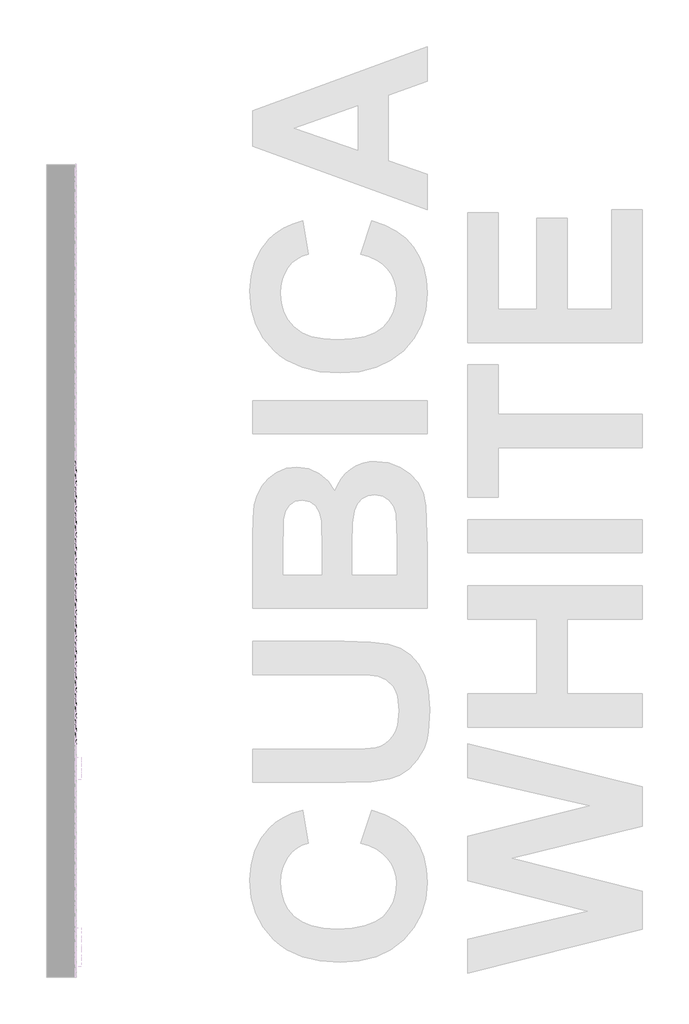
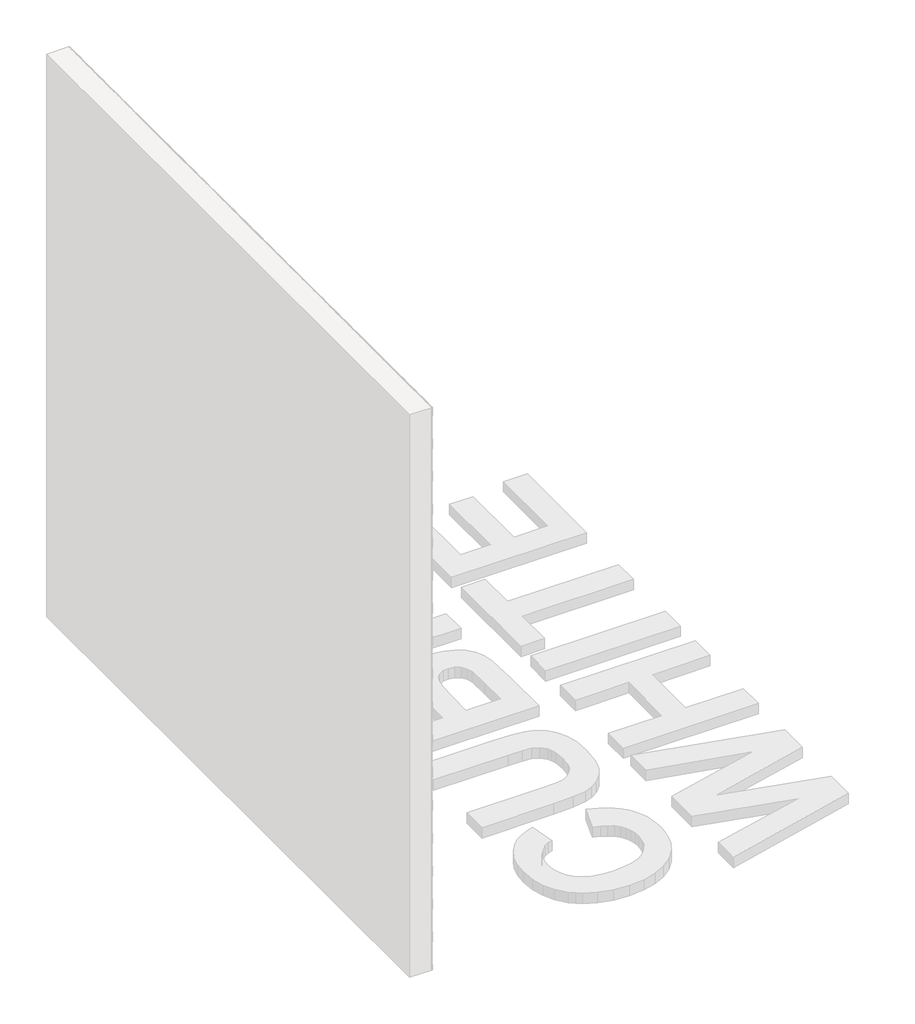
# One storey, part 108 of 121: 144 proxies.
"""IFC4 building model written with IfcOpenShell, lengths in millimetres."""

from ifc_helpers import new_model, si_unit, origin, place, context, project, spatial, transform, mapped, element, save
from components import generic_models_b2b2c5c1, generic_models_9bf73f6f, generic_models_5d175859

model = new_model("IFC4")

# Units and contexts
model_context = context("Model", 3, world=origin())
ifc_project = project(units=[si_unit("LENGTHUNIT", "METRE", prefix="MILLI")], contexts=[model_context])

# Site, building, storey
site = spatial("IfcSite", under=ifc_project)
building = spatial("IfcBuilding", under=site)
storey = spatial("IfcBuildingStorey", under=building, Name="PORTOBELLO - SHOWROOM", Elevation=0.0)

# Proxies
placement = place(None, origin())
generic_models_shape = generic_models_b2b2c5c1(model_context)
element("IfcBuildingElementProxy", 1, Name="PBSHOP - CUBICA WHITE 4,8X8,3 : CUBICA WHITE - POSIÇÃO 01", ObjectType="PBSHOP - CUBICA WHITE 4,8X8,3 : CUBICA WHITE - POSIÇÃO 01", at=placement, inside=storey, context=model_context, shape_type="MappedRepresentation", body=[
    mapped(generic_models_shape, transform((150369.5341846, 20059.5208034, 1223.4417424), x_axis=(0.0, 1.0, 0.0), y_axis=(0.0, 0.0, 1.0), z_axis=(1.0, 0.0, 0.0))),
])
element("IfcBuildingElementProxy", 2, Name="PBSHOP - CUBICA WHITE 4,8X8,3 : CUBICA WHITE - POSIÇÃO 01", ObjectType="PBSHOP - CUBICA WHITE 4,8X8,3 : CUBICA WHITE - POSIÇÃO 01", at=placement, inside=storey, context=model_context, shape_type="MappedRepresentation", body=[
    mapped(generic_models_shape, transform((150369.5341846, 20150.3600726, 1223.4417424), x_axis=(0.0, 1.0, 0.0), y_axis=(0.0, 0.0, 1.0), z_axis=(1.0, 0.0, 0.0))),
])
element("IfcBuildingElementProxy", 3, Name="PBSHOP - CUBICA WHITE 4,8X8,3 : CUBICA WHITE - POSIÇÃO 01", ObjectType="PBSHOP - CUBICA WHITE 4,8X8,3 : CUBICA WHITE - POSIÇÃO 01", at=placement, inside=storey, context=model_context, shape_type="MappedRepresentation", body=[
    mapped(generic_models_shape, transform((150369.5341846, 20241.1993419, 1223.4417424), x_axis=(0.0, 1.0, 0.0), y_axis=(0.0, 0.0, 1.0), z_axis=(1.0, 0.0, 0.0))),
])
element("IfcBuildingElementProxy", 4, Name="PBSHOP - CUBICA WHITE 4,8X8,3 : CUBICA WHITE - POSIÇÃO 01", ObjectType="PBSHOP - CUBICA WHITE 4,8X8,3 : CUBICA WHITE - POSIÇÃO 01", at=placement, inside=storey, context=model_context, shape_type="MappedRepresentation", body=[
    mapped(generic_models_shape, transform((150369.5341846, 20332.0386111, 1223.4417424), x_axis=(0.0, 1.0, 0.0), y_axis=(0.0, 0.0, 1.0), z_axis=(1.0, 0.0, 0.0))),
])
element("IfcBuildingElementProxy", 5, Name="PBSHOP - CUBICA WHITE 4,8X8,3 : CUBICA WHITE - POSIÇÃO 01", ObjectType="PBSHOP - CUBICA WHITE 4,8X8,3 : CUBICA WHITE - POSIÇÃO 01", at=placement, inside=storey, context=model_context, shape_type="MappedRepresentation", body=[
    mapped(generic_models_shape, transform((150369.5341846, 20422.8778804, 1223.4417424), x_axis=(0.0, 1.0, 0.0), y_axis=(0.0, 0.0, 1.0), z_axis=(1.0, 0.0, 0.0))),
])
element("IfcBuildingElementProxy", 6, Name="PBSHOP - CUBICA WHITE 4,8X8,3 : CUBICA WHITE - POSIÇÃO 01", ObjectType="PBSHOP - CUBICA WHITE 4,8X8,3 : CUBICA WHITE - POSIÇÃO 01", at=placement, inside=storey, context=model_context, shape_type="MappedRepresentation", body=[
    mapped(generic_models_shape, transform((150369.5341846, 20513.7171496, 1223.4417424), x_axis=(0.0, 1.0, 0.0), y_axis=(0.0, 0.0, 1.0), z_axis=(1.0, 0.0, 0.0))),
])
element("IfcBuildingElementProxy", 7, Name="PBSHOP - CUBICA WHITE 4,8X8,3 : CUBICA WHITE - POSIÇÃO 01", ObjectType="PBSHOP - CUBICA WHITE 4,8X8,3 : CUBICA WHITE - POSIÇÃO 01", at=placement, inside=storey, context=model_context, shape_type="MappedRepresentation", body=[
    mapped(generic_models_shape, transform((150369.5341846, 20604.5564189, 1223.4417424), x_axis=(0.0, 1.0, 0.0), y_axis=(0.0, 0.0, 1.0), z_axis=(1.0, 0.0, 0.0))),
])
element("IfcBuildingElementProxy", 8, Name="PBSHOP - CUBICA WHITE 4,8X8,3 : CUBICA WHITE - POSIÇÃO 01", ObjectType="PBSHOP - CUBICA WHITE 4,8X8,3 : CUBICA WHITE - POSIÇÃO 01", at=placement, inside=storey, context=model_context, shape_type="MappedRepresentation", body=[
    mapped(generic_models_shape, transform((150369.5341846, 20695.3956881, 1223.4417424), x_axis=(0.0, 1.0, 0.0), y_axis=(0.0, 0.0, 1.0), z_axis=(1.0, 0.0, 0.0))),
])
element("IfcBuildingElementProxy", 9, Name="PBSHOP - CUBICA WHITE 4,8X8,3 : CUBICA WHITE - POSIÇÃO 01", ObjectType="PBSHOP - CUBICA WHITE 4,8X8,3 : CUBICA WHITE - POSIÇÃO 01", at=placement, inside=storey, context=model_context, shape_type="MappedRepresentation", body=[
    mapped(generic_models_shape, transform((150369.5341846, 20786.2349573, 1223.4417424), x_axis=(0.0, 1.0, 0.0), y_axis=(0.0, 0.0, 1.0), z_axis=(1.0, 0.0, 0.0))),
])
element("IfcBuildingElementProxy", 10, Name="PBSHOP - CUBICA WHITE 4,8X8,3 : CUBICA WHITE - POSIÇÃO 01", ObjectType="PBSHOP - CUBICA WHITE 4,8X8,3 : CUBICA WHITE - POSIÇÃO 01", at=placement, inside=storey, context=model_context, shape_type="MappedRepresentation", body=[
    mapped(generic_models_shape, transform((150369.5341846, 20877.0742266, 1223.4417424), x_axis=(0.0, 1.0, 0.0), y_axis=(0.0, 0.0, 1.0), z_axis=(1.0, 0.0, 0.0))),
])
element("IfcBuildingElementProxy", 11, Name="PBSHOP - CUBICA WHITE 4,8X8,3 : CUBICA WHITE - POSIÇÃO 01", ObjectType="PBSHOP - CUBICA WHITE 4,8X8,3 : CUBICA WHITE - POSIÇÃO 01", at=placement, inside=storey, context=model_context, shape_type="MappedRepresentation", body=[
    mapped(generic_models_shape, transform((150369.5341846, 20967.9134958, 1223.4417424), x_axis=(0.0, 1.0, 0.0), y_axis=(0.0, 0.0, 1.0), z_axis=(1.0, 0.0, 0.0))),
])
element("IfcBuildingElementProxy", 12, Name="PBSHOP - CUBICA WHITE 4,8X8,3 : CUBICA WHITE - POSIÇÃO 01", ObjectType="PBSHOP - CUBICA WHITE 4,8X8,3 : CUBICA WHITE - POSIÇÃO 01", at=placement, inside=storey, context=model_context, shape_type="MappedRepresentation", body=[
    mapped(generic_models_shape, transform((150369.5341846, 20014.1011688, 1302.3763808), x_axis=(0.0, 1.0, 0.0), y_axis=(0.0, 0.0, 1.0), z_axis=(1.0, 0.0, 0.0))),
])
element("IfcBuildingElementProxy", 13, Name="PBSHOP - CUBICA WHITE 4,8X8,3 : CUBICA WHITE - POSIÇÃO 01", ObjectType="PBSHOP - CUBICA WHITE 4,8X8,3 : CUBICA WHITE - POSIÇÃO 01", at=placement, inside=storey, context=model_context, shape_type="MappedRepresentation", body=[
    mapped(generic_models_shape, transform((150369.5341846, 20104.940438, 1302.3763808), x_axis=(0.0, 1.0, 0.0), y_axis=(0.0, 0.0, 1.0), z_axis=(1.0, 0.0, 0.0))),
])
element("IfcBuildingElementProxy", 14, Name="PBSHOP - CUBICA WHITE 4,8X8,3 : CUBICA WHITE - POSIÇÃO 01", ObjectType="PBSHOP - CUBICA WHITE 4,8X8,3 : CUBICA WHITE - POSIÇÃO 01", at=placement, inside=storey, context=model_context, shape_type="MappedRepresentation", body=[
    mapped(generic_models_shape, transform((150369.5341846, 20195.7797073, 1302.3763808), x_axis=(0.0, 1.0, 0.0), y_axis=(0.0, 0.0, 1.0), z_axis=(1.0, 0.0, 0.0))),
])
element("IfcBuildingElementProxy", 15, Name="PBSHOP - CUBICA WHITE 4,8X8,3 : CUBICA WHITE - POSIÇÃO 01", ObjectType="PBSHOP - CUBICA WHITE 4,8X8,3 : CUBICA WHITE - POSIÇÃO 01", at=placement, inside=storey, context=model_context, shape_type="MappedRepresentation", body=[
    mapped(generic_models_shape, transform((150369.5341846, 20286.6189765, 1302.3763808), x_axis=(0.0, 1.0, 0.0), y_axis=(0.0, 0.0, 1.0), z_axis=(1.0, 0.0, 0.0))),
])
element("IfcBuildingElementProxy", 16, Name="PBSHOP - CUBICA WHITE 4,8X8,3 : CUBICA WHITE - POSIÇÃO 01", ObjectType="PBSHOP - CUBICA WHITE 4,8X8,3 : CUBICA WHITE - POSIÇÃO 01", at=placement, inside=storey, context=model_context, shape_type="MappedRepresentation", body=[
    mapped(generic_models_shape, transform((150369.5341846, 20377.4582457, 1302.3763808), x_axis=(0.0, 1.0, 0.0), y_axis=(0.0, 0.0, 1.0), z_axis=(1.0, 0.0, 0.0))),
])
element("IfcBuildingElementProxy", 17, Name="PBSHOP - CUBICA WHITE 4,8X8,3 : CUBICA WHITE - POSIÇÃO 01", ObjectType="PBSHOP - CUBICA WHITE 4,8X8,3 : CUBICA WHITE - POSIÇÃO 01", at=placement, inside=storey, context=model_context, shape_type="MappedRepresentation", body=[
    mapped(generic_models_shape, transform((150369.5341846, 20468.297515, 1302.3763808), x_axis=(0.0, 1.0, 0.0), y_axis=(0.0, 0.0, 1.0), z_axis=(1.0, 0.0, 0.0))),
])
element("IfcBuildingElementProxy", 18, Name="PBSHOP - CUBICA WHITE 4,8X8,3 : CUBICA WHITE - POSIÇÃO 01", ObjectType="PBSHOP - CUBICA WHITE 4,8X8,3 : CUBICA WHITE - POSIÇÃO 01", at=placement, inside=storey, context=model_context, shape_type="MappedRepresentation", body=[
    mapped(generic_models_shape, transform((150369.5341846, 20559.1367842, 1302.3763808), x_axis=(0.0, 1.0, 0.0), y_axis=(0.0, 0.0, 1.0), z_axis=(1.0, 0.0, 0.0))),
])
element("IfcBuildingElementProxy", 19, Name="PBSHOP - CUBICA WHITE 4,8X8,3 : CUBICA WHITE - POSIÇÃO 01", ObjectType="PBSHOP - CUBICA WHITE 4,8X8,3 : CUBICA WHITE - POSIÇÃO 01", at=placement, inside=storey, context=model_context, shape_type="MappedRepresentation", body=[
    mapped(generic_models_shape, transform((150369.5341846, 20649.9760535, 1302.3763808), x_axis=(0.0, 1.0, 0.0), y_axis=(0.0, 0.0, 1.0), z_axis=(1.0, 0.0, 0.0))),
])
element("IfcBuildingElementProxy", 20, Name="PBSHOP - CUBICA WHITE 4,8X8,3 : CUBICA WHITE - POSIÇÃO 01", ObjectType="PBSHOP - CUBICA WHITE 4,8X8,3 : CUBICA WHITE - POSIÇÃO 01", at=placement, inside=storey, context=model_context, shape_type="MappedRepresentation", body=[
    mapped(generic_models_shape, transform((150369.5341846, 20740.8153227, 1302.3763808), x_axis=(0.0, 1.0, 0.0), y_axis=(0.0, 0.0, 1.0), z_axis=(1.0, 0.0, 0.0))),
])
element("IfcBuildingElementProxy", 21, Name="PBSHOP - CUBICA WHITE 4,8X8,3 : CUBICA WHITE - POSIÇÃO 01", ObjectType="PBSHOP - CUBICA WHITE 4,8X8,3 : CUBICA WHITE - POSIÇÃO 01", at=placement, inside=storey, context=model_context, shape_type="MappedRepresentation", body=[
    mapped(generic_models_shape, transform((150369.5341846, 20831.654592, 1302.3763808), x_axis=(0.0, 1.0, 0.0), y_axis=(0.0, 0.0, 1.0), z_axis=(1.0, 0.0, 0.0))),
])
element("IfcBuildingElementProxy", 22, Name="PBSHOP - CUBICA WHITE 4,8X8,3 : CUBICA WHITE - POSIÇÃO 01", ObjectType="PBSHOP - CUBICA WHITE 4,8X8,3 : CUBICA WHITE - POSIÇÃO 01", at=placement, inside=storey, context=model_context, shape_type="MappedRepresentation", body=[
    mapped(generic_models_shape, transform((150369.5341846, 20922.4938612, 1302.3763808), x_axis=(0.0, 1.0, 0.0), y_axis=(0.0, 0.0, 1.0), z_axis=(1.0, 0.0, 0.0))),
])
element("IfcBuildingElementProxy", 23, Name="PBSHOP - CUBICA WHITE 4,8X8,3 : CUBICA WHITE - POSIÇÃO 01", ObjectType="PBSHOP - CUBICA WHITE 4,8X8,3 : CUBICA WHITE - POSIÇÃO 01", at=placement, inside=storey, context=model_context, shape_type="MappedRepresentation", body=[
    mapped(generic_models_shape, transform((150369.5341846, 20059.5208034, 1381.3110192), x_axis=(0.0, 1.0, 0.0), y_axis=(0.0, 0.0, 1.0), z_axis=(1.0, 0.0, 0.0))),
])
element("IfcBuildingElementProxy", 24, Name="PBSHOP - CUBICA WHITE 4,8X8,3 : CUBICA WHITE - POSIÇÃO 01", ObjectType="PBSHOP - CUBICA WHITE 4,8X8,3 : CUBICA WHITE - POSIÇÃO 01", at=placement, inside=storey, context=model_context, shape_type="MappedRepresentation", body=[
    mapped(generic_models_shape, transform((150369.5341846, 20150.3600726, 1381.3110192), x_axis=(0.0, 1.0, 0.0), y_axis=(0.0, 0.0, 1.0), z_axis=(1.0, 0.0, 0.0))),
])
element("IfcBuildingElementProxy", 25, Name="PBSHOP - CUBICA WHITE 4,8X8,3 : CUBICA WHITE - POSIÇÃO 01", ObjectType="PBSHOP - CUBICA WHITE 4,8X8,3 : CUBICA WHITE - POSIÇÃO 01", at=placement, inside=storey, context=model_context, shape_type="MappedRepresentation", body=[
    mapped(generic_models_shape, transform((150369.5341846, 20241.1993419, 1381.3110192), x_axis=(0.0, 1.0, 0.0), y_axis=(0.0, 0.0, 1.0), z_axis=(1.0, 0.0, 0.0))),
])
element("IfcBuildingElementProxy", 26, Name="PBSHOP - CUBICA WHITE 4,8X8,3 : CUBICA WHITE - POSIÇÃO 01", ObjectType="PBSHOP - CUBICA WHITE 4,8X8,3 : CUBICA WHITE - POSIÇÃO 01", at=placement, inside=storey, context=model_context, shape_type="MappedRepresentation", body=[
    mapped(generic_models_shape, transform((150369.5341846, 20332.0386111, 1381.3110192), x_axis=(0.0, 1.0, 0.0), y_axis=(0.0, 0.0, 1.0), z_axis=(1.0, 0.0, 0.0))),
])
element("IfcBuildingElementProxy", 27, Name="PBSHOP - CUBICA WHITE 4,8X8,3 : CUBICA WHITE - POSIÇÃO 01", ObjectType="PBSHOP - CUBICA WHITE 4,8X8,3 : CUBICA WHITE - POSIÇÃO 01", at=placement, inside=storey, context=model_context, shape_type="MappedRepresentation", body=[
    mapped(generic_models_shape, transform((150369.5341846, 20422.8778804, 1381.3110192), x_axis=(0.0, 1.0, 0.0), y_axis=(0.0, 0.0, 1.0), z_axis=(1.0, 0.0, 0.0))),
])
element("IfcBuildingElementProxy", 28, Name="PBSHOP - CUBICA WHITE 4,8X8,3 : CUBICA WHITE - POSIÇÃO 01", ObjectType="PBSHOP - CUBICA WHITE 4,8X8,3 : CUBICA WHITE - POSIÇÃO 01", at=placement, inside=storey, context=model_context, shape_type="MappedRepresentation", body=[
    mapped(generic_models_shape, transform((150369.5341846, 20513.7171496, 1381.3110192), x_axis=(0.0, 1.0, 0.0), y_axis=(0.0, 0.0, 1.0), z_axis=(1.0, 0.0, 0.0))),
])
element("IfcBuildingElementProxy", 29, Name="PBSHOP - CUBICA WHITE 4,8X8,3 : CUBICA WHITE - POSIÇÃO 01", ObjectType="PBSHOP - CUBICA WHITE 4,8X8,3 : CUBICA WHITE - POSIÇÃO 01", at=placement, inside=storey, context=model_context, shape_type="MappedRepresentation", body=[
    mapped(generic_models_shape, transform((150369.5341846, 20604.5564189, 1381.3110192), x_axis=(0.0, 1.0, 0.0), y_axis=(0.0, 0.0, 1.0), z_axis=(1.0, 0.0, 0.0))),
])
element("IfcBuildingElementProxy", 30, Name="PBSHOP - CUBICA WHITE 4,8X8,3 : CUBICA WHITE - POSIÇÃO 01", ObjectType="PBSHOP - CUBICA WHITE 4,8X8,3 : CUBICA WHITE - POSIÇÃO 01", at=placement, inside=storey, context=model_context, shape_type="MappedRepresentation", body=[
    mapped(generic_models_shape, transform((150369.5341846, 20695.3956881, 1381.3110192), x_axis=(0.0, 1.0, 0.0), y_axis=(0.0, 0.0, 1.0), z_axis=(1.0, 0.0, 0.0))),
])
element("IfcBuildingElementProxy", 31, Name="PBSHOP - CUBICA WHITE 4,8X8,3 : CUBICA WHITE - POSIÇÃO 01", ObjectType="PBSHOP - CUBICA WHITE 4,8X8,3 : CUBICA WHITE - POSIÇÃO 01", at=placement, inside=storey, context=model_context, shape_type="MappedRepresentation", body=[
    mapped(generic_models_shape, transform((150369.5341846, 20786.2349573, 1381.3110192), x_axis=(0.0, 1.0, 0.0), y_axis=(0.0, 0.0, 1.0), z_axis=(1.0, 0.0, 0.0))),
])
element("IfcBuildingElementProxy", 32, Name="PBSHOP - CUBICA WHITE 4,8X8,3 : CUBICA WHITE - POSIÇÃO 01", ObjectType="PBSHOP - CUBICA WHITE 4,8X8,3 : CUBICA WHITE - POSIÇÃO 01", at=placement, inside=storey, context=model_context, shape_type="MappedRepresentation", body=[
    mapped(generic_models_shape, transform((150369.5341846, 20877.0742266, 1381.3110192), x_axis=(0.0, 1.0, 0.0), y_axis=(0.0, 0.0, 1.0), z_axis=(1.0, 0.0, 0.0))),
])
element("IfcBuildingElementProxy", 33, Name="PBSHOP - CUBICA WHITE 4,8X8,3 : CUBICA WHITE - POSIÇÃO 01", ObjectType="PBSHOP - CUBICA WHITE 4,8X8,3 : CUBICA WHITE - POSIÇÃO 01", at=placement, inside=storey, context=model_context, shape_type="MappedRepresentation", body=[
    mapped(generic_models_shape, transform((150369.5341846, 20967.9134958, 1381.3110192), x_axis=(0.0, 1.0, 0.0), y_axis=(0.0, 0.0, 1.0), z_axis=(1.0, 0.0, 0.0))),
])
element("IfcBuildingElementProxy", 34, Name="PBSHOP - CUBICA WHITE 4,8X8,3 : CUBICA WHITE - POSIÇÃO 01", ObjectType="PBSHOP - CUBICA WHITE 4,8X8,3 : CUBICA WHITE - POSIÇÃO 01", at=placement, inside=storey, context=model_context, shape_type="MappedRepresentation", body=[
    mapped(generic_models_shape, transform((150369.5341846, 20014.1011688, 1460.2456575), x_axis=(0.0, 1.0, 0.0), y_axis=(0.0, 0.0, 1.0), z_axis=(1.0, 0.0, 0.0))),
])
element("IfcBuildingElementProxy", 35, Name="PBSHOP - CUBICA WHITE 4,8X8,3 : CUBICA WHITE - POSIÇÃO 01", ObjectType="PBSHOP - CUBICA WHITE 4,8X8,3 : CUBICA WHITE - POSIÇÃO 01", at=placement, inside=storey, context=model_context, shape_type="MappedRepresentation", body=[
    mapped(generic_models_shape, transform((150369.5341846, 20104.940438, 1460.2456575), x_axis=(0.0, 1.0, 0.0), y_axis=(0.0, 0.0, 1.0), z_axis=(1.0, 0.0, 0.0))),
])
element("IfcBuildingElementProxy", 36, Name="PBSHOP - CUBICA WHITE 4,8X8,3 : CUBICA WHITE - POSIÇÃO 01", ObjectType="PBSHOP - CUBICA WHITE 4,8X8,3 : CUBICA WHITE - POSIÇÃO 01", at=placement, inside=storey, context=model_context, shape_type="MappedRepresentation", body=[
    mapped(generic_models_shape, transform((150369.5341846, 20195.7797073, 1460.2456575), x_axis=(0.0, 1.0, 0.0), y_axis=(0.0, 0.0, 1.0), z_axis=(1.0, 0.0, 0.0))),
])
element("IfcBuildingElementProxy", 37, Name="PBSHOP - CUBICA WHITE 4,8X8,3 : CUBICA WHITE - POSIÇÃO 01", ObjectType="PBSHOP - CUBICA WHITE 4,8X8,3 : CUBICA WHITE - POSIÇÃO 01", at=placement, inside=storey, context=model_context, shape_type="MappedRepresentation", body=[
    mapped(generic_models_shape, transform((150369.5341846, 20286.6189765, 1460.2456575), x_axis=(0.0, 1.0, 0.0), y_axis=(0.0, 0.0, 1.0), z_axis=(1.0, 0.0, 0.0))),
])
element("IfcBuildingElementProxy", 38, Name="PBSHOP - CUBICA WHITE 4,8X8,3 : CUBICA WHITE - POSIÇÃO 01", ObjectType="PBSHOP - CUBICA WHITE 4,8X8,3 : CUBICA WHITE - POSIÇÃO 01", at=placement, inside=storey, context=model_context, shape_type="MappedRepresentation", body=[
    mapped(generic_models_shape, transform((150369.5341846, 20377.4582457, 1460.2456575), x_axis=(0.0, 1.0, 0.0), y_axis=(0.0, 0.0, 1.0), z_axis=(1.0, 0.0, 0.0))),
])
element("IfcBuildingElementProxy", 39, Name="PBSHOP - CUBICA WHITE 4,8X8,3 : CUBICA WHITE - POSIÇÃO 01", ObjectType="PBSHOP - CUBICA WHITE 4,8X8,3 : CUBICA WHITE - POSIÇÃO 01", at=placement, inside=storey, context=model_context, shape_type="MappedRepresentation", body=[
    mapped(generic_models_shape, transform((150369.5341846, 20468.297515, 1460.2456575), x_axis=(0.0, 1.0, 0.0), y_axis=(0.0, 0.0, 1.0), z_axis=(1.0, 0.0, 0.0))),
])
element("IfcBuildingElementProxy", 40, Name="PBSHOP - CUBICA WHITE 4,8X8,3 : CUBICA WHITE - POSIÇÃO 01", ObjectType="PBSHOP - CUBICA WHITE 4,8X8,3 : CUBICA WHITE - POSIÇÃO 01", at=placement, inside=storey, context=model_context, shape_type="MappedRepresentation", body=[
    mapped(generic_models_shape, transform((150369.5341846, 20559.1367842, 1460.2456575), x_axis=(0.0, 1.0, 0.0), y_axis=(0.0, 0.0, 1.0), z_axis=(1.0, 0.0, 0.0))),
])
element("IfcBuildingElementProxy", 41, Name="PBSHOP - CUBICA WHITE 4,8X8,3 : CUBICA WHITE - POSIÇÃO 01", ObjectType="PBSHOP - CUBICA WHITE 4,8X8,3 : CUBICA WHITE - POSIÇÃO 01", at=placement, inside=storey, context=model_context, shape_type="MappedRepresentation", body=[
    mapped(generic_models_shape, transform((150369.5341846, 20649.9760535, 1460.2456575), x_axis=(0.0, 1.0, 0.0), y_axis=(0.0, 0.0, 1.0), z_axis=(1.0, 0.0, 0.0))),
])
element("IfcBuildingElementProxy", 42, Name="PBSHOP - CUBICA WHITE 4,8X8,3 : CUBICA WHITE - POSIÇÃO 01", ObjectType="PBSHOP - CUBICA WHITE 4,8X8,3 : CUBICA WHITE - POSIÇÃO 01", at=placement, inside=storey, context=model_context, shape_type="MappedRepresentation", body=[
    mapped(generic_models_shape, transform((150369.5341846, 20740.8153227, 1460.2456575), x_axis=(0.0, 1.0, 0.0), y_axis=(0.0, 0.0, 1.0), z_axis=(1.0, 0.0, 0.0))),
])
element("IfcBuildingElementProxy", 43, Name="PBSHOP - CUBICA WHITE 4,8X8,3 : CUBICA WHITE - POSIÇÃO 01", ObjectType="PBSHOP - CUBICA WHITE 4,8X8,3 : CUBICA WHITE - POSIÇÃO 01", at=placement, inside=storey, context=model_context, shape_type="MappedRepresentation", body=[
    mapped(generic_models_shape, transform((150369.5341846, 20831.654592, 1460.2456575), x_axis=(0.0, 1.0, 0.0), y_axis=(0.0, 0.0, 1.0), z_axis=(1.0, 0.0, 0.0))),
])
element("IfcBuildingElementProxy", 44, Name="PBSHOP - CUBICA WHITE 4,8X8,3 : CUBICA WHITE - POSIÇÃO 01", ObjectType="PBSHOP - CUBICA WHITE 4,8X8,3 : CUBICA WHITE - POSIÇÃO 01", at=placement, inside=storey, context=model_context, shape_type="MappedRepresentation", body=[
    mapped(generic_models_shape, transform((150369.5341846, 20922.4938612, 1460.2456575), x_axis=(0.0, 1.0, 0.0), y_axis=(0.0, 0.0, 1.0), z_axis=(1.0, 0.0, 0.0))),
])
element("IfcBuildingElementProxy", 45, Name="PBSHOP - CUBICA WHITE 4,8X8,3 : CUBICA WHITE - POSIÇÃO 01", ObjectType="PBSHOP - CUBICA WHITE 4,8X8,3 : CUBICA WHITE - POSIÇÃO 01", at=placement, inside=storey, context=model_context, shape_type="MappedRepresentation", body=[
    mapped(generic_models_shape, transform((150369.5341846, 20059.5208034, 1539.1802959), x_axis=(0.0, 1.0, 0.0), y_axis=(0.0, 0.0, 1.0), z_axis=(1.0, 0.0, 0.0))),
])
element("IfcBuildingElementProxy", 46, Name="PBSHOP - CUBICA WHITE 4,8X8,3 : CUBICA WHITE - POSIÇÃO 01", ObjectType="PBSHOP - CUBICA WHITE 4,8X8,3 : CUBICA WHITE - POSIÇÃO 01", at=placement, inside=storey, context=model_context, shape_type="MappedRepresentation", body=[
    mapped(generic_models_shape, transform((150369.5341846, 20150.3600726, 1539.1802959), x_axis=(0.0, 1.0, 0.0), y_axis=(0.0, 0.0, 1.0), z_axis=(1.0, 0.0, 0.0))),
])
element("IfcBuildingElementProxy", 47, Name="PBSHOP - CUBICA WHITE 4,8X8,3 : CUBICA WHITE - POSIÇÃO 01", ObjectType="PBSHOP - CUBICA WHITE 4,8X8,3 : CUBICA WHITE - POSIÇÃO 01", at=placement, inside=storey, context=model_context, shape_type="MappedRepresentation", body=[
    mapped(generic_models_shape, transform((150369.5341846, 20241.1993419, 1539.1802959), x_axis=(0.0, 1.0, 0.0), y_axis=(0.0, 0.0, 1.0), z_axis=(1.0, 0.0, 0.0))),
])
element("IfcBuildingElementProxy", 48, Name="PBSHOP - CUBICA WHITE 4,8X8,3 : CUBICA WHITE - POSIÇÃO 01", ObjectType="PBSHOP - CUBICA WHITE 4,8X8,3 : CUBICA WHITE - POSIÇÃO 01", at=placement, inside=storey, context=model_context, shape_type="MappedRepresentation", body=[
    mapped(generic_models_shape, transform((150369.5341846, 20332.0386111, 1539.1802959), x_axis=(0.0, 1.0, 0.0), y_axis=(0.0, 0.0, 1.0), z_axis=(1.0, 0.0, 0.0))),
])
generic_models_2_shape = generic_models_9bf73f6f(model_context)
element("IfcBuildingElementProxy", 49, Name="PBSHOP - CUBICA WHITE 4,8X8,3 : CUBICA WHITE - POSIÇÃO 03", ObjectType="PBSHOP - CUBICA WHITE 4,8X8,3 : CUBICA WHITE - POSIÇÃO 03", at=placement, inside=storey, context=model_context, shape_type="MappedRepresentation", body=[
    mapped(generic_models_2_shape, transform((150369.5341846, 20718.1076646, 1104.9985744), x_axis=(0.0, 1.0, 0.0), y_axis=(0.0, 0.0, 1.0), z_axis=(1.0, 0.0, 0.0))),
])
element("IfcBuildingElementProxy", 50, Name="PBSHOP - CUBICA WHITE 4,8X8,3 : CUBICA WHITE - POSIÇÃO 03", ObjectType="PBSHOP - CUBICA WHITE 4,8X8,3 : CUBICA WHITE - POSIÇÃO 03", at=placement, inside=storey, context=model_context, shape_type="MappedRepresentation", body=[
    mapped(generic_models_2_shape, transform((150369.5341846, 20808.9469338, 1104.9985744), x_axis=(0.0, 1.0, 0.0), y_axis=(0.0, 0.0, 1.0), z_axis=(1.0, 0.0, 0.0))),
])
element("IfcBuildingElementProxy", 51, Name="PBSHOP - CUBICA WHITE 4,8X8,3 : CUBICA WHITE - POSIÇÃO 03", ObjectType="PBSHOP - CUBICA WHITE 4,8X8,3 : CUBICA WHITE - POSIÇÃO 03", at=placement, inside=storey, context=model_context, shape_type="MappedRepresentation", body=[
    mapped(generic_models_2_shape, transform((150369.5341846, 20899.7862031, 1104.9985744), x_axis=(0.0, 1.0, 0.0), y_axis=(0.0, 0.0, 1.0), z_axis=(1.0, 0.0, 0.0))),
])
element("IfcBuildingElementProxy", 52, Name="PBSHOP - CUBICA WHITE 4,8X8,3 : CUBICA WHITE - POSIÇÃO 03", ObjectType="PBSHOP - CUBICA WHITE 4,8X8,3 : CUBICA WHITE - POSIÇÃO 03", at=placement, inside=storey, context=model_context, shape_type="MappedRepresentation", body=[
    mapped(generic_models_2_shape, transform((150369.5341846, 20990.6254723, 1104.9985744), x_axis=(0.0, 1.0, 0.0), y_axis=(0.0, 0.0, 1.0), z_axis=(1.0, 0.0, 0.0))),
])
element("IfcBuildingElementProxy", 53, Name="PBSHOP - CUBICA WHITE 4,8X8,3 : CUBICA WHITE - POSIÇÃO 03", ObjectType="PBSHOP - CUBICA WHITE 4,8X8,3 : CUBICA WHITE - POSIÇÃO 03", at=placement, inside=storey, context=model_context, shape_type="MappedRepresentation", body=[
    mapped(generic_models_2_shape, transform((150369.5341846, 20036.8131452, 1183.9332128), x_axis=(0.0, 1.0, 0.0), y_axis=(0.0, 0.0, 1.0), z_axis=(1.0, 0.0, 0.0))),
])
element("IfcBuildingElementProxy", 54, Name="PBSHOP - CUBICA WHITE 4,8X8,3 : CUBICA WHITE - POSIÇÃO 03", ObjectType="PBSHOP - CUBICA WHITE 4,8X8,3 : CUBICA WHITE - POSIÇÃO 03", at=placement, inside=storey, context=model_context, shape_type="MappedRepresentation", body=[
    mapped(generic_models_2_shape, transform((150369.5341846, 20127.6524145, 1183.9332128), x_axis=(0.0, 1.0, 0.0), y_axis=(0.0, 0.0, 1.0), z_axis=(1.0, 0.0, 0.0))),
])
element("IfcBuildingElementProxy", 55, Name="PBSHOP - CUBICA WHITE 4,8X8,3 : CUBICA WHITE - POSIÇÃO 03", ObjectType="PBSHOP - CUBICA WHITE 4,8X8,3 : CUBICA WHITE - POSIÇÃO 03", at=placement, inside=storey, context=model_context, shape_type="MappedRepresentation", body=[
    mapped(generic_models_2_shape, transform((150369.5341846, 20218.4916837, 1183.9332128), x_axis=(0.0, 1.0, 0.0), y_axis=(0.0, 0.0, 1.0), z_axis=(1.0, 0.0, 0.0))),
])
element("IfcBuildingElementProxy", 56, Name="PBSHOP - CUBICA WHITE 4,8X8,3 : CUBICA WHITE - POSIÇÃO 03", ObjectType="PBSHOP - CUBICA WHITE 4,8X8,3 : CUBICA WHITE - POSIÇÃO 03", at=placement, inside=storey, context=model_context, shape_type="MappedRepresentation", body=[
    mapped(generic_models_2_shape, transform((150369.5341846, 20309.330953, 1183.9332128), x_axis=(0.0, 1.0, 0.0), y_axis=(0.0, 0.0, 1.0), z_axis=(1.0, 0.0, 0.0))),
])
element("IfcBuildingElementProxy", 57, Name="PBSHOP - CUBICA WHITE 4,8X8,3 : CUBICA WHITE - POSIÇÃO 03", ObjectType="PBSHOP - CUBICA WHITE 4,8X8,3 : CUBICA WHITE - POSIÇÃO 03", at=placement, inside=storey, context=model_context, shape_type="MappedRepresentation", body=[
    mapped(generic_models_2_shape, transform((150369.5341846, 20400.1702222, 1183.9332128), x_axis=(0.0, 1.0, 0.0), y_axis=(0.0, 0.0, 1.0), z_axis=(1.0, 0.0, 0.0))),
])
element("IfcBuildingElementProxy", 58, Name="PBSHOP - CUBICA WHITE 4,8X8,3 : CUBICA WHITE - POSIÇÃO 03", ObjectType="PBSHOP - CUBICA WHITE 4,8X8,3 : CUBICA WHITE - POSIÇÃO 03", at=placement, inside=storey, context=model_context, shape_type="MappedRepresentation", body=[
    mapped(generic_models_2_shape, transform((150369.5341846, 20491.0094915, 1183.9332128), x_axis=(0.0, 1.0, 0.0), y_axis=(0.0, 0.0, 1.0), z_axis=(1.0, 0.0, 0.0))),
])
element("IfcBuildingElementProxy", 59, Name="PBSHOP - CUBICA WHITE 4,8X8,3 : CUBICA WHITE - POSIÇÃO 03", ObjectType="PBSHOP - CUBICA WHITE 4,8X8,3 : CUBICA WHITE - POSIÇÃO 03", at=placement, inside=storey, context=model_context, shape_type="MappedRepresentation", body=[
    mapped(generic_models_2_shape, transform((150369.5341846, 20581.8487607, 1183.9332128), x_axis=(0.0, 1.0, 0.0), y_axis=(0.0, 0.0, 1.0), z_axis=(1.0, 0.0, 0.0))),
])
element("IfcBuildingElementProxy", 60, Name="PBSHOP - CUBICA WHITE 4,8X8,3 : CUBICA WHITE - POSIÇÃO 03", ObjectType="PBSHOP - CUBICA WHITE 4,8X8,3 : CUBICA WHITE - POSIÇÃO 03", at=placement, inside=storey, context=model_context, shape_type="MappedRepresentation", body=[
    mapped(generic_models_2_shape, transform((150369.5341846, 20672.6880299, 1183.9332128), x_axis=(0.0, 1.0, 0.0), y_axis=(0.0, 0.0, 1.0), z_axis=(1.0, 0.0, 0.0))),
])
element("IfcBuildingElementProxy", 61, Name="PBSHOP - CUBICA WHITE 4,8X8,3 : CUBICA WHITE - POSIÇÃO 03", ObjectType="PBSHOP - CUBICA WHITE 4,8X8,3 : CUBICA WHITE - POSIÇÃO 03", at=placement, inside=storey, context=model_context, shape_type="MappedRepresentation", body=[
    mapped(generic_models_2_shape, transform((150369.5341846, 20763.5272992, 1183.9332128), x_axis=(0.0, 1.0, 0.0), y_axis=(0.0, 0.0, 1.0), z_axis=(1.0, 0.0, 0.0))),
])
element("IfcBuildingElementProxy", 62, Name="PBSHOP - CUBICA WHITE 4,8X8,3 : CUBICA WHITE - POSIÇÃO 03", ObjectType="PBSHOP - CUBICA WHITE 4,8X8,3 : CUBICA WHITE - POSIÇÃO 03", at=placement, inside=storey, context=model_context, shape_type="MappedRepresentation", body=[
    mapped(generic_models_2_shape, transform((150369.5341846, 20854.3665684, 1183.9332128), x_axis=(0.0, 1.0, 0.0), y_axis=(0.0, 0.0, 1.0), z_axis=(1.0, 0.0, 0.0))),
])
element("IfcBuildingElementProxy", 63, Name="PBSHOP - CUBICA WHITE 4,8X8,3 : CUBICA WHITE - POSIÇÃO 03", ObjectType="PBSHOP - CUBICA WHITE 4,8X8,3 : CUBICA WHITE - POSIÇÃO 03", at=placement, inside=storey, context=model_context, shape_type="MappedRepresentation", body=[
    mapped(generic_models_2_shape, transform((150369.5341846, 20945.2058377, 1183.9332128), x_axis=(0.0, 1.0, 0.0), y_axis=(0.0, 0.0, 1.0), z_axis=(1.0, 0.0, 0.0))),
])
element("IfcBuildingElementProxy", 64, Name="PBSHOP - CUBICA WHITE 4,8X8,3 : CUBICA WHITE - POSIÇÃO 03", ObjectType="PBSHOP - CUBICA WHITE 4,8X8,3 : CUBICA WHITE - POSIÇÃO 03", at=placement, inside=storey, context=model_context, shape_type="MappedRepresentation", body=[
    mapped(generic_models_2_shape, transform((150369.5341846, 20082.2327799, 1262.8678512), x_axis=(0.0, 1.0, 0.0), y_axis=(0.0, 0.0, 1.0), z_axis=(1.0, 0.0, 0.0))),
])
element("IfcBuildingElementProxy", 65, Name="PBSHOP - CUBICA WHITE 4,8X8,3 : CUBICA WHITE - POSIÇÃO 03", ObjectType="PBSHOP - CUBICA WHITE 4,8X8,3 : CUBICA WHITE - POSIÇÃO 03", at=placement, inside=storey, context=model_context, shape_type="MappedRepresentation", body=[
    mapped(generic_models_2_shape, transform((150369.5341846, 20173.0720491, 1262.8678512), x_axis=(0.0, 1.0, 0.0), y_axis=(0.0, 0.0, 1.0), z_axis=(1.0, 0.0, 0.0))),
])
element("IfcBuildingElementProxy", 66, Name="PBSHOP - CUBICA WHITE 4,8X8,3 : CUBICA WHITE - POSIÇÃO 03", ObjectType="PBSHOP - CUBICA WHITE 4,8X8,3 : CUBICA WHITE - POSIÇÃO 03", at=placement, inside=storey, context=model_context, shape_type="MappedRepresentation", body=[
    mapped(generic_models_2_shape, transform((150369.5341846, 20263.9113184, 1262.8678512), x_axis=(0.0, 1.0, 0.0), y_axis=(0.0, 0.0, 1.0), z_axis=(1.0, 0.0, 0.0))),
])
element("IfcBuildingElementProxy", 67, Name="PBSHOP - CUBICA WHITE 4,8X8,3 : CUBICA WHITE - POSIÇÃO 03", ObjectType="PBSHOP - CUBICA WHITE 4,8X8,3 : CUBICA WHITE - POSIÇÃO 03", at=placement, inside=storey, context=model_context, shape_type="MappedRepresentation", body=[
    mapped(generic_models_2_shape, transform((150369.5341846, 20354.7505876, 1262.8678512), x_axis=(0.0, 1.0, 0.0), y_axis=(0.0, 0.0, 1.0), z_axis=(1.0, 0.0, 0.0))),
])
element("IfcBuildingElementProxy", 68, Name="PBSHOP - CUBICA WHITE 4,8X8,3 : CUBICA WHITE - POSIÇÃO 03", ObjectType="PBSHOP - CUBICA WHITE 4,8X8,3 : CUBICA WHITE - POSIÇÃO 03", at=placement, inside=storey, context=model_context, shape_type="MappedRepresentation", body=[
    mapped(generic_models_2_shape, transform((150369.5341846, 20445.5898568, 1262.8678512), x_axis=(0.0, 1.0, 0.0), y_axis=(0.0, 0.0, 1.0), z_axis=(1.0, 0.0, 0.0))),
])
element("IfcBuildingElementProxy", 69, Name="PBSHOP - CUBICA WHITE 4,8X8,3 : CUBICA WHITE - POSIÇÃO 03", ObjectType="PBSHOP - CUBICA WHITE 4,8X8,3 : CUBICA WHITE - POSIÇÃO 03", at=placement, inside=storey, context=model_context, shape_type="MappedRepresentation", body=[
    mapped(generic_models_2_shape, transform((150369.5341846, 20536.4291261, 1262.8678512), x_axis=(0.0, 1.0, 0.0), y_axis=(0.0, 0.0, 1.0), z_axis=(1.0, 0.0, 0.0))),
])
element("IfcBuildingElementProxy", 70, Name="PBSHOP - CUBICA WHITE 4,8X8,3 : CUBICA WHITE - POSIÇÃO 03", ObjectType="PBSHOP - CUBICA WHITE 4,8X8,3 : CUBICA WHITE - POSIÇÃO 03", at=placement, inside=storey, context=model_context, shape_type="MappedRepresentation", body=[
    mapped(generic_models_2_shape, transform((150369.5341846, 20627.2683953, 1262.8678512), x_axis=(0.0, 1.0, 0.0), y_axis=(0.0, 0.0, 1.0), z_axis=(1.0, 0.0, 0.0))),
])
element("IfcBuildingElementProxy", 71, Name="PBSHOP - CUBICA WHITE 4,8X8,3 : CUBICA WHITE - POSIÇÃO 03", ObjectType="PBSHOP - CUBICA WHITE 4,8X8,3 : CUBICA WHITE - POSIÇÃO 03", at=placement, inside=storey, context=model_context, shape_type="MappedRepresentation", body=[
    mapped(generic_models_2_shape, transform((150369.5341846, 20718.1076646, 1262.8678512), x_axis=(0.0, 1.0, 0.0), y_axis=(0.0, 0.0, 1.0), z_axis=(1.0, 0.0, 0.0))),
])
element("IfcBuildingElementProxy", 72, Name="PBSHOP - CUBICA WHITE 4,8X8,3 : CUBICA WHITE - POSIÇÃO 03", ObjectType="PBSHOP - CUBICA WHITE 4,8X8,3 : CUBICA WHITE - POSIÇÃO 03", at=placement, inside=storey, context=model_context, shape_type="MappedRepresentation", body=[
    mapped(generic_models_2_shape, transform((150369.5341846, 20808.9469338, 1262.8678512), x_axis=(0.0, 1.0, 0.0), y_axis=(0.0, 0.0, 1.0), z_axis=(1.0, 0.0, 0.0))),
])
element("IfcBuildingElementProxy", 73, Name="PBSHOP - CUBICA WHITE 4,8X8,3 : CUBICA WHITE - POSIÇÃO 03", ObjectType="PBSHOP - CUBICA WHITE 4,8X8,3 : CUBICA WHITE - POSIÇÃO 03", at=placement, inside=storey, context=model_context, shape_type="MappedRepresentation", body=[
    mapped(generic_models_2_shape, transform((150369.5341846, 20899.7862031, 1262.8678512), x_axis=(0.0, 1.0, 0.0), y_axis=(0.0, 0.0, 1.0), z_axis=(1.0, 0.0, 0.0))),
])
element("IfcBuildingElementProxy", 74, Name="PBSHOP - CUBICA WHITE 4,8X8,3 : CUBICA WHITE - POSIÇÃO 03", ObjectType="PBSHOP - CUBICA WHITE 4,8X8,3 : CUBICA WHITE - POSIÇÃO 03", at=placement, inside=storey, context=model_context, shape_type="MappedRepresentation", body=[
    mapped(generic_models_2_shape, transform((150369.5341846, 20990.6254723, 1262.8678512), x_axis=(0.0, 1.0, 0.0), y_axis=(0.0, 0.0, 1.0), z_axis=(1.0, 0.0, 0.0))),
])
element("IfcBuildingElementProxy", 75, Name="PBSHOP - CUBICA WHITE 4,8X8,3 : CUBICA WHITE - POSIÇÃO 03", ObjectType="PBSHOP - CUBICA WHITE 4,8X8,3 : CUBICA WHITE - POSIÇÃO 03", at=placement, inside=storey, context=model_context, shape_type="MappedRepresentation", body=[
    mapped(generic_models_2_shape, transform((150369.5341846, 20036.8131452, 1341.8024896), x_axis=(0.0, 1.0, 0.0), y_axis=(0.0, 0.0, 1.0), z_axis=(1.0, 0.0, 0.0))),
])
element("IfcBuildingElementProxy", 76, Name="PBSHOP - CUBICA WHITE 4,8X8,3 : CUBICA WHITE - POSIÇÃO 03", ObjectType="PBSHOP - CUBICA WHITE 4,8X8,3 : CUBICA WHITE - POSIÇÃO 03", at=placement, inside=storey, context=model_context, shape_type="MappedRepresentation", body=[
    mapped(generic_models_2_shape, transform((150369.5341846, 20127.6524145, 1341.8024896), x_axis=(0.0, 1.0, 0.0), y_axis=(0.0, 0.0, 1.0), z_axis=(1.0, 0.0, 0.0))),
])
element("IfcBuildingElementProxy", 77, Name="PBSHOP - CUBICA WHITE 4,8X8,3 : CUBICA WHITE - POSIÇÃO 03", ObjectType="PBSHOP - CUBICA WHITE 4,8X8,3 : CUBICA WHITE - POSIÇÃO 03", at=placement, inside=storey, context=model_context, shape_type="MappedRepresentation", body=[
    mapped(generic_models_2_shape, transform((150369.5341846, 20218.4916837, 1341.8024896), x_axis=(0.0, 1.0, 0.0), y_axis=(0.0, 0.0, 1.0), z_axis=(1.0, 0.0, 0.0))),
])
element("IfcBuildingElementProxy", 78, Name="PBSHOP - CUBICA WHITE 4,8X8,3 : CUBICA WHITE - POSIÇÃO 03", ObjectType="PBSHOP - CUBICA WHITE 4,8X8,3 : CUBICA WHITE - POSIÇÃO 03", at=placement, inside=storey, context=model_context, shape_type="MappedRepresentation", body=[
    mapped(generic_models_2_shape, transform((150369.5341846, 20309.330953, 1341.8024896), x_axis=(0.0, 1.0, 0.0), y_axis=(0.0, 0.0, 1.0), z_axis=(1.0, 0.0, 0.0))),
])
element("IfcBuildingElementProxy", 79, Name="PBSHOP - CUBICA WHITE 4,8X8,3 : CUBICA WHITE - POSIÇÃO 03", ObjectType="PBSHOP - CUBICA WHITE 4,8X8,3 : CUBICA WHITE - POSIÇÃO 03", at=placement, inside=storey, context=model_context, shape_type="MappedRepresentation", body=[
    mapped(generic_models_2_shape, transform((150369.5341846, 20400.1702222, 1341.8024896), x_axis=(0.0, 1.0, 0.0), y_axis=(0.0, 0.0, 1.0), z_axis=(1.0, 0.0, 0.0))),
])
element("IfcBuildingElementProxy", 80, Name="PBSHOP - CUBICA WHITE 4,8X8,3 : CUBICA WHITE - POSIÇÃO 03", ObjectType="PBSHOP - CUBICA WHITE 4,8X8,3 : CUBICA WHITE - POSIÇÃO 03", at=placement, inside=storey, context=model_context, shape_type="MappedRepresentation", body=[
    mapped(generic_models_2_shape, transform((150369.5341846, 20491.0094915, 1341.8024896), x_axis=(0.0, 1.0, 0.0), y_axis=(0.0, 0.0, 1.0), z_axis=(1.0, 0.0, 0.0))),
])
element("IfcBuildingElementProxy", 81, Name="PBSHOP - CUBICA WHITE 4,8X8,3 : CUBICA WHITE - POSIÇÃO 03", ObjectType="PBSHOP - CUBICA WHITE 4,8X8,3 : CUBICA WHITE - POSIÇÃO 03", at=placement, inside=storey, context=model_context, shape_type="MappedRepresentation", body=[
    mapped(generic_models_2_shape, transform((150369.5341846, 20581.8487607, 1341.8024896), x_axis=(0.0, 1.0, 0.0), y_axis=(0.0, 0.0, 1.0), z_axis=(1.0, 0.0, 0.0))),
])
element("IfcBuildingElementProxy", 82, Name="PBSHOP - CUBICA WHITE 4,8X8,3 : CUBICA WHITE - POSIÇÃO 03", ObjectType="PBSHOP - CUBICA WHITE 4,8X8,3 : CUBICA WHITE - POSIÇÃO 03", at=placement, inside=storey, context=model_context, shape_type="MappedRepresentation", body=[
    mapped(generic_models_2_shape, transform((150369.5341846, 20672.6880299, 1341.8024896), x_axis=(0.0, 1.0, 0.0), y_axis=(0.0, 0.0, 1.0), z_axis=(1.0, 0.0, 0.0))),
])
element("IfcBuildingElementProxy", 83, Name="PBSHOP - CUBICA WHITE 4,8X8,3 : CUBICA WHITE - POSIÇÃO 03", ObjectType="PBSHOP - CUBICA WHITE 4,8X8,3 : CUBICA WHITE - POSIÇÃO 03", at=placement, inside=storey, context=model_context, shape_type="MappedRepresentation", body=[
    mapped(generic_models_2_shape, transform((150369.5341846, 20763.5272992, 1341.8024896), x_axis=(0.0, 1.0, 0.0), y_axis=(0.0, 0.0, 1.0), z_axis=(1.0, 0.0, 0.0))),
])
element("IfcBuildingElementProxy", 84, Name="PBSHOP - CUBICA WHITE 4,8X8,3 : CUBICA WHITE - POSIÇÃO 03", ObjectType="PBSHOP - CUBICA WHITE 4,8X8,3 : CUBICA WHITE - POSIÇÃO 03", at=placement, inside=storey, context=model_context, shape_type="MappedRepresentation", body=[
    mapped(generic_models_2_shape, transform((150369.5341846, 20854.3665684, 1341.8024896), x_axis=(0.0, 1.0, 0.0), y_axis=(0.0, 0.0, 1.0), z_axis=(1.0, 0.0, 0.0))),
])
element("IfcBuildingElementProxy", 85, Name="PBSHOP - CUBICA WHITE 4,8X8,3 : CUBICA WHITE - POSIÇÃO 03", ObjectType="PBSHOP - CUBICA WHITE 4,8X8,3 : CUBICA WHITE - POSIÇÃO 03", at=placement, inside=storey, context=model_context, shape_type="MappedRepresentation", body=[
    mapped(generic_models_2_shape, transform((150369.5341846, 20945.2058377, 1341.8024896), x_axis=(0.0, 1.0, 0.0), y_axis=(0.0, 0.0, 1.0), z_axis=(1.0, 0.0, 0.0))),
])
element("IfcBuildingElementProxy", 86, Name="PBSHOP - CUBICA WHITE 4,8X8,3 : CUBICA WHITE - POSIÇÃO 03", ObjectType="PBSHOP - CUBICA WHITE 4,8X8,3 : CUBICA WHITE - POSIÇÃO 03", at=placement, inside=storey, context=model_context, shape_type="MappedRepresentation", body=[
    mapped(generic_models_2_shape, transform((150369.5341846, 20082.2327799, 1420.7371279), x_axis=(0.0, 1.0, 0.0), y_axis=(0.0, 0.0, 1.0), z_axis=(1.0, 0.0, 0.0))),
])
element("IfcBuildingElementProxy", 87, Name="PBSHOP - CUBICA WHITE 4,8X8,3 : CUBICA WHITE - POSIÇÃO 03", ObjectType="PBSHOP - CUBICA WHITE 4,8X8,3 : CUBICA WHITE - POSIÇÃO 03", at=placement, inside=storey, context=model_context, shape_type="MappedRepresentation", body=[
    mapped(generic_models_2_shape, transform((150369.5341846, 20173.0720491, 1420.7371279), x_axis=(0.0, 1.0, 0.0), y_axis=(0.0, 0.0, 1.0), z_axis=(1.0, 0.0, 0.0))),
])
element("IfcBuildingElementProxy", 88, Name="PBSHOP - CUBICA WHITE 4,8X8,3 : CUBICA WHITE - POSIÇÃO 03", ObjectType="PBSHOP - CUBICA WHITE 4,8X8,3 : CUBICA WHITE - POSIÇÃO 03", at=placement, inside=storey, context=model_context, shape_type="MappedRepresentation", body=[
    mapped(generic_models_2_shape, transform((150369.5341846, 20263.9113184, 1420.7371279), x_axis=(0.0, 1.0, 0.0), y_axis=(0.0, 0.0, 1.0), z_axis=(1.0, 0.0, 0.0))),
])
element("IfcBuildingElementProxy", 89, Name="PBSHOP - CUBICA WHITE 4,8X8,3 : CUBICA WHITE - POSIÇÃO 03", ObjectType="PBSHOP - CUBICA WHITE 4,8X8,3 : CUBICA WHITE - POSIÇÃO 03", at=placement, inside=storey, context=model_context, shape_type="MappedRepresentation", body=[
    mapped(generic_models_2_shape, transform((150369.5341846, 20354.7505876, 1420.7371279), x_axis=(0.0, 1.0, 0.0), y_axis=(0.0, 0.0, 1.0), z_axis=(1.0, 0.0, 0.0))),
])
element("IfcBuildingElementProxy", 90, Name="PBSHOP - CUBICA WHITE 4,8X8,3 : CUBICA WHITE - POSIÇÃO 03", ObjectType="PBSHOP - CUBICA WHITE 4,8X8,3 : CUBICA WHITE - POSIÇÃO 03", at=placement, inside=storey, context=model_context, shape_type="MappedRepresentation", body=[
    mapped(generic_models_2_shape, transform((150369.5341846, 20445.5898568, 1420.7371279), x_axis=(0.0, 1.0, 0.0), y_axis=(0.0, 0.0, 1.0), z_axis=(1.0, 0.0, 0.0))),
])
element("IfcBuildingElementProxy", 91, Name="PBSHOP - CUBICA WHITE 4,8X8,3 : CUBICA WHITE - POSIÇÃO 03", ObjectType="PBSHOP - CUBICA WHITE 4,8X8,3 : CUBICA WHITE - POSIÇÃO 03", at=placement, inside=storey, context=model_context, shape_type="MappedRepresentation", body=[
    mapped(generic_models_2_shape, transform((150369.5341846, 20536.4291261, 1420.7371279), x_axis=(0.0, 1.0, 0.0), y_axis=(0.0, 0.0, 1.0), z_axis=(1.0, 0.0, 0.0))),
])
element("IfcBuildingElementProxy", 92, Name="PBSHOP - CUBICA WHITE 4,8X8,3 : CUBICA WHITE - POSIÇÃO 03", ObjectType="PBSHOP - CUBICA WHITE 4,8X8,3 : CUBICA WHITE - POSIÇÃO 03", at=placement, inside=storey, context=model_context, shape_type="MappedRepresentation", body=[
    mapped(generic_models_2_shape, transform((150369.5341846, 20627.2683953, 1420.7371279), x_axis=(0.0, 1.0, 0.0), y_axis=(0.0, 0.0, 1.0), z_axis=(1.0, 0.0, 0.0))),
])
element("IfcBuildingElementProxy", 93, Name="PBSHOP - CUBICA WHITE 4,8X8,3 : CUBICA WHITE - POSIÇÃO 03", ObjectType="PBSHOP - CUBICA WHITE 4,8X8,3 : CUBICA WHITE - POSIÇÃO 03", at=placement, inside=storey, context=model_context, shape_type="MappedRepresentation", body=[
    mapped(generic_models_2_shape, transform((150369.5341846, 20718.1076646, 1420.7371279), x_axis=(0.0, 1.0, 0.0), y_axis=(0.0, 0.0, 1.0), z_axis=(1.0, 0.0, 0.0))),
])
element("IfcBuildingElementProxy", 94, Name="PBSHOP - CUBICA WHITE 4,8X8,3 : CUBICA WHITE - POSIÇÃO 03", ObjectType="PBSHOP - CUBICA WHITE 4,8X8,3 : CUBICA WHITE - POSIÇÃO 03", at=placement, inside=storey, context=model_context, shape_type="MappedRepresentation", body=[
    mapped(generic_models_2_shape, transform((150369.5341846, 20808.9469338, 1420.7371279), x_axis=(0.0, 1.0, 0.0), y_axis=(0.0, 0.0, 1.0), z_axis=(1.0, 0.0, 0.0))),
])
element("IfcBuildingElementProxy", 95, Name="PBSHOP - CUBICA WHITE 4,8X8,3 : CUBICA WHITE - POSIÇÃO 03", ObjectType="PBSHOP - CUBICA WHITE 4,8X8,3 : CUBICA WHITE - POSIÇÃO 03", at=placement, inside=storey, context=model_context, shape_type="MappedRepresentation", body=[
    mapped(generic_models_2_shape, transform((150369.5341846, 20899.7862031, 1420.7371279), x_axis=(0.0, 1.0, 0.0), y_axis=(0.0, 0.0, 1.0), z_axis=(1.0, 0.0, 0.0))),
])
element("IfcBuildingElementProxy", 96, Name="PBSHOP - CUBICA WHITE 4,8X8,3 : CUBICA WHITE - POSIÇÃO 03", ObjectType="PBSHOP - CUBICA WHITE 4,8X8,3 : CUBICA WHITE - POSIÇÃO 03", at=placement, inside=storey, context=model_context, shape_type="MappedRepresentation", body=[
    mapped(generic_models_2_shape, transform((150369.5341846, 20990.6254723, 1420.7371279), x_axis=(0.0, 1.0, 0.0), y_axis=(0.0, 0.0, 1.0), z_axis=(1.0, 0.0, 0.0))),
])
generic_models_3_shape = generic_models_5d175859(model_context)
element("IfcBuildingElementProxy", 97, Name="PBSHOP - CUBICA WHITE 4,8X8,3 : CUBICA WHITE - POSIÇÃO 01", ObjectType="PBSHOP - CUBICA WHITE 4,8X8,3 : CUBICA WHITE - POSIÇÃO 01", at=placement, inside=storey, context=model_context, shape_type="MappedRepresentation", body=[
    mapped(generic_models_3_shape, transform((150369.5341846, 20014.1054871, 1223.4417424), x_axis=(0.0, -1.0, 0.0), y_axis=(0.0, 0.0, -1.0), z_axis=(1.0, 0.0, 0.0))),
])
element("IfcBuildingElementProxy", 98, Name="PBSHOP - CUBICA WHITE 4,8X8,3 : CUBICA WHITE - POSIÇÃO 01", ObjectType="PBSHOP - CUBICA WHITE 4,8X8,3 : CUBICA WHITE - POSIÇÃO 01", at=placement, inside=storey, context=model_context, shape_type="MappedRepresentation", body=[
    mapped(generic_models_3_shape, transform((150369.5341846, 20104.9447563, 1223.4417424), x_axis=(0.0, -1.0, 0.0), y_axis=(0.0, 0.0, -1.0), z_axis=(1.0, 0.0, 0.0))),
])
element("IfcBuildingElementProxy", 99, Name="PBSHOP - CUBICA WHITE 4,8X8,3 : CUBICA WHITE - POSIÇÃO 01", ObjectType="PBSHOP - CUBICA WHITE 4,8X8,3 : CUBICA WHITE - POSIÇÃO 01", at=placement, inside=storey, context=model_context, shape_type="MappedRepresentation", body=[
    mapped(generic_models_3_shape, transform((150369.5341846, 20195.7840256, 1223.4417424), x_axis=(0.0, -1.0, 0.0), y_axis=(0.0, 0.0, -1.0), z_axis=(1.0, 0.0, 0.0))),
])
element("IfcBuildingElementProxy", 100, Name="PBSHOP - CUBICA WHITE 4,8X8,3 : CUBICA WHITE - POSIÇÃO 01", ObjectType="PBSHOP - CUBICA WHITE 4,8X8,3 : CUBICA WHITE - POSIÇÃO 01", at=placement, inside=storey, context=model_context, shape_type="MappedRepresentation", body=[
    mapped(generic_models_3_shape, transform((150369.5341846, 20286.6232948, 1223.4417424), x_axis=(0.0, -1.0, 0.0), y_axis=(0.0, 0.0, -1.0), z_axis=(1.0, 0.0, 0.0))),
])
element("IfcBuildingElementProxy", 101, Name="PBSHOP - CUBICA WHITE 4,8X8,3 : CUBICA WHITE - POSIÇÃO 01", ObjectType="PBSHOP - CUBICA WHITE 4,8X8,3 : CUBICA WHITE - POSIÇÃO 01", at=placement, inside=storey, context=model_context, shape_type="MappedRepresentation", body=[
    mapped(generic_models_3_shape, transform((150369.5341846, 20377.4625641, 1223.4417424), x_axis=(0.0, -1.0, 0.0), y_axis=(0.0, 0.0, -1.0), z_axis=(1.0, 0.0, 0.0))),
])
element("IfcBuildingElementProxy", 102, Name="PBSHOP - CUBICA WHITE 4,8X8,3 : CUBICA WHITE - POSIÇÃO 01", ObjectType="PBSHOP - CUBICA WHITE 4,8X8,3 : CUBICA WHITE - POSIÇÃO 01", at=placement, inside=storey, context=model_context, shape_type="MappedRepresentation", body=[
    mapped(generic_models_3_shape, transform((150369.5341846, 20468.3018333, 1223.4417424), x_axis=(0.0, -1.0, 0.0), y_axis=(0.0, 0.0, -1.0), z_axis=(1.0, 0.0, 0.0))),
])
element("IfcBuildingElementProxy", 103, Name="PBSHOP - CUBICA WHITE 4,8X8,3 : CUBICA WHITE - POSIÇÃO 01", ObjectType="PBSHOP - CUBICA WHITE 4,8X8,3 : CUBICA WHITE - POSIÇÃO 01", at=placement, inside=storey, context=model_context, shape_type="MappedRepresentation", body=[
    mapped(generic_models_3_shape, transform((150369.5341846, 20559.1411026, 1223.4417424), x_axis=(0.0, -1.0, 0.0), y_axis=(0.0, 0.0, -1.0), z_axis=(1.0, 0.0, 0.0))),
])
element("IfcBuildingElementProxy", 104, Name="PBSHOP - CUBICA WHITE 4,8X8,3 : CUBICA WHITE - POSIÇÃO 01", ObjectType="PBSHOP - CUBICA WHITE 4,8X8,3 : CUBICA WHITE - POSIÇÃO 01", at=placement, inside=storey, context=model_context, shape_type="MappedRepresentation", body=[
    mapped(generic_models_3_shape, transform((150369.5341846, 20649.9803718, 1223.4417424), x_axis=(0.0, -1.0, 0.0), y_axis=(0.0, 0.0, -1.0), z_axis=(1.0, 0.0, 0.0))),
])
element("IfcBuildingElementProxy", 105, Name="PBSHOP - CUBICA WHITE 4,8X8,3 : CUBICA WHITE - POSIÇÃO 01", ObjectType="PBSHOP - CUBICA WHITE 4,8X8,3 : CUBICA WHITE - POSIÇÃO 01", at=placement, inside=storey, context=model_context, shape_type="MappedRepresentation", body=[
    mapped(generic_models_3_shape, transform((150369.5341846, 20740.819641, 1223.4417424), x_axis=(0.0, -1.0, 0.0), y_axis=(0.0, 0.0, -1.0), z_axis=(1.0, 0.0, 0.0))),
])
element("IfcBuildingElementProxy", 106, Name="PBSHOP - CUBICA WHITE 4,8X8,3 : CUBICA WHITE - POSIÇÃO 01", ObjectType="PBSHOP - CUBICA WHITE 4,8X8,3 : CUBICA WHITE - POSIÇÃO 01", at=placement, inside=storey, context=model_context, shape_type="MappedRepresentation", body=[
    mapped(generic_models_3_shape, transform((150369.5341846, 20831.6589103, 1223.4417424), x_axis=(0.0, -1.0, 0.0), y_axis=(0.0, 0.0, -1.0), z_axis=(1.0, 0.0, 0.0))),
])
element("IfcBuildingElementProxy", 107, Name="PBSHOP - CUBICA WHITE 4,8X8,3 : CUBICA WHITE - POSIÇÃO 01", ObjectType="PBSHOP - CUBICA WHITE 4,8X8,3 : CUBICA WHITE - POSIÇÃO 01", at=placement, inside=storey, context=model_context, shape_type="MappedRepresentation", body=[
    mapped(generic_models_3_shape, transform((150369.5341846, 20922.4981795, 1223.4417424), x_axis=(0.0, -1.0, 0.0), y_axis=(0.0, 0.0, -1.0), z_axis=(1.0, 0.0, 0.0))),
])
element("IfcBuildingElementProxy", 108, Name="PBSHOP - CUBICA WHITE 4,8X8,3 : CUBICA WHITE - POSIÇÃO 01", ObjectType="PBSHOP - CUBICA WHITE 4,8X8,3 : CUBICA WHITE - POSIÇÃO 01", at=placement, inside=storey, context=model_context, shape_type="MappedRepresentation", body=[
    mapped(generic_models_3_shape, transform((150369.5341846, 20059.5251217, 1302.3763808), x_axis=(0.0, -1.0, 0.0), y_axis=(0.0, 0.0, -1.0), z_axis=(1.0, 0.0, 0.0))),
])
element("IfcBuildingElementProxy", 109, Name="PBSHOP - CUBICA WHITE 4,8X8,3 : CUBICA WHITE - POSIÇÃO 01", ObjectType="PBSHOP - CUBICA WHITE 4,8X8,3 : CUBICA WHITE - POSIÇÃO 01", at=placement, inside=storey, context=model_context, shape_type="MappedRepresentation", body=[
    mapped(generic_models_3_shape, transform((150369.5341846, 20150.364391, 1302.3763808), x_axis=(0.0, -1.0, 0.0), y_axis=(0.0, 0.0, -1.0), z_axis=(1.0, 0.0, 0.0))),
])
element("IfcBuildingElementProxy", 110, Name="PBSHOP - CUBICA WHITE 4,8X8,3 : CUBICA WHITE - POSIÇÃO 01", ObjectType="PBSHOP - CUBICA WHITE 4,8X8,3 : CUBICA WHITE - POSIÇÃO 01", at=placement, inside=storey, context=model_context, shape_type="MappedRepresentation", body=[
    mapped(generic_models_3_shape, transform((150369.5341846, 20241.2036602, 1302.3763808), x_axis=(0.0, -1.0, 0.0), y_axis=(0.0, 0.0, -1.0), z_axis=(1.0, 0.0, 0.0))),
])
element("IfcBuildingElementProxy", 111, Name="PBSHOP - CUBICA WHITE 4,8X8,3 : CUBICA WHITE - POSIÇÃO 01", ObjectType="PBSHOP - CUBICA WHITE 4,8X8,3 : CUBICA WHITE - POSIÇÃO 01", at=placement, inside=storey, context=model_context, shape_type="MappedRepresentation", body=[
    mapped(generic_models_3_shape, transform((150369.5341846, 20332.0429295, 1302.3763808), x_axis=(0.0, -1.0, 0.0), y_axis=(0.0, 0.0, -1.0), z_axis=(1.0, 0.0, 0.0))),
])
element("IfcBuildingElementProxy", 112, Name="PBSHOP - CUBICA WHITE 4,8X8,3 : CUBICA WHITE - POSIÇÃO 01", ObjectType="PBSHOP - CUBICA WHITE 4,8X8,3 : CUBICA WHITE - POSIÇÃO 01", at=placement, inside=storey, context=model_context, shape_type="MappedRepresentation", body=[
    mapped(generic_models_3_shape, transform((150369.5341846, 20422.8821987, 1302.3763808), x_axis=(0.0, -1.0, 0.0), y_axis=(0.0, 0.0, -1.0), z_axis=(1.0, 0.0, 0.0))),
])
element("IfcBuildingElementProxy", 113, Name="PBSHOP - CUBICA WHITE 4,8X8,3 : CUBICA WHITE - POSIÇÃO 01", ObjectType="PBSHOP - CUBICA WHITE 4,8X8,3 : CUBICA WHITE - POSIÇÃO 01", at=placement, inside=storey, context=model_context, shape_type="MappedRepresentation", body=[
    mapped(generic_models_3_shape, transform((150369.5341846, 20513.7214679, 1302.3763808), x_axis=(0.0, -1.0, 0.0), y_axis=(0.0, 0.0, -1.0), z_axis=(1.0, 0.0, 0.0))),
])
element("IfcBuildingElementProxy", 114, Name="PBSHOP - CUBICA WHITE 4,8X8,3 : CUBICA WHITE - POSIÇÃO 01", ObjectType="PBSHOP - CUBICA WHITE 4,8X8,3 : CUBICA WHITE - POSIÇÃO 01", at=placement, inside=storey, context=model_context, shape_type="MappedRepresentation", body=[
    mapped(generic_models_3_shape, transform((150369.5341846, 20604.5607372, 1302.3763808), x_axis=(0.0, -1.0, 0.0), y_axis=(0.0, 0.0, -1.0), z_axis=(1.0, 0.0, 0.0))),
])
element("IfcBuildingElementProxy", 115, Name="PBSHOP - CUBICA WHITE 4,8X8,3 : CUBICA WHITE - POSIÇÃO 01", ObjectType="PBSHOP - CUBICA WHITE 4,8X8,3 : CUBICA WHITE - POSIÇÃO 01", at=placement, inside=storey, context=model_context, shape_type="MappedRepresentation", body=[
    mapped(generic_models_3_shape, transform((150369.5341846, 20695.4000064, 1302.3763808), x_axis=(0.0, -1.0, 0.0), y_axis=(0.0, 0.0, -1.0), z_axis=(1.0, 0.0, 0.0))),
])
element("IfcBuildingElementProxy", 116, Name="PBSHOP - CUBICA WHITE 4,8X8,3 : CUBICA WHITE - POSIÇÃO 01", ObjectType="PBSHOP - CUBICA WHITE 4,8X8,3 : CUBICA WHITE - POSIÇÃO 01", at=placement, inside=storey, context=model_context, shape_type="MappedRepresentation", body=[
    mapped(generic_models_3_shape, transform((150369.5341846, 20786.2392757, 1302.3763808), x_axis=(0.0, -1.0, 0.0), y_axis=(0.0, 0.0, -1.0), z_axis=(1.0, 0.0, 0.0))),
])
element("IfcBuildingElementProxy", 117, Name="PBSHOP - CUBICA WHITE 4,8X8,3 : CUBICA WHITE - POSIÇÃO 01", ObjectType="PBSHOP - CUBICA WHITE 4,8X8,3 : CUBICA WHITE - POSIÇÃO 01", at=placement, inside=storey, context=model_context, shape_type="MappedRepresentation", body=[
    mapped(generic_models_3_shape, transform((150369.5341846, 20877.0785449, 1302.3763808), x_axis=(0.0, -1.0, 0.0), y_axis=(0.0, 0.0, -1.0), z_axis=(1.0, 0.0, 0.0))),
])
element("IfcBuildingElementProxy", 118, Name="PBSHOP - CUBICA WHITE 4,8X8,3 : CUBICA WHITE - POSIÇÃO 01", ObjectType="PBSHOP - CUBICA WHITE 4,8X8,3 : CUBICA WHITE - POSIÇÃO 01", at=placement, inside=storey, context=model_context, shape_type="MappedRepresentation", body=[
    mapped(generic_models_3_shape, transform((150369.5341846, 20967.9178142, 1302.3763808), x_axis=(0.0, -1.0, 0.0), y_axis=(0.0, 0.0, -1.0), z_axis=(1.0, 0.0, 0.0))),
])
element("IfcBuildingElementProxy", 119, Name="PBSHOP - CUBICA WHITE 4,8X8,3 : CUBICA WHITE - POSIÇÃO 01", ObjectType="PBSHOP - CUBICA WHITE 4,8X8,3 : CUBICA WHITE - POSIÇÃO 01", at=placement, inside=storey, context=model_context, shape_type="MappedRepresentation", body=[
    mapped(generic_models_3_shape, transform((150369.5341846, 20014.1054871, 1381.3110192), x_axis=(0.0, -1.0, 0.0), y_axis=(0.0, 0.0, -1.0), z_axis=(1.0, 0.0, 0.0))),
])
element("IfcBuildingElementProxy", 120, Name="PBSHOP - CUBICA WHITE 4,8X8,3 : CUBICA WHITE - POSIÇÃO 01", ObjectType="PBSHOP - CUBICA WHITE 4,8X8,3 : CUBICA WHITE - POSIÇÃO 01", at=placement, inside=storey, context=model_context, shape_type="MappedRepresentation", body=[
    mapped(generic_models_3_shape, transform((150369.5341846, 20104.9447563, 1381.3110192), x_axis=(0.0, -1.0, 0.0), y_axis=(0.0, 0.0, -1.0), z_axis=(1.0, 0.0, 0.0))),
])
element("IfcBuildingElementProxy", 121, Name="PBSHOP - CUBICA WHITE 4,8X8,3 : CUBICA WHITE - POSIÇÃO 01", ObjectType="PBSHOP - CUBICA WHITE 4,8X8,3 : CUBICA WHITE - POSIÇÃO 01", at=placement, inside=storey, context=model_context, shape_type="MappedRepresentation", body=[
    mapped(generic_models_3_shape, transform((150369.5341846, 20195.7840256, 1381.3110192), x_axis=(0.0, -1.0, 0.0), y_axis=(0.0, 0.0, -1.0), z_axis=(1.0, 0.0, 0.0))),
])
element("IfcBuildingElementProxy", 122, Name="PBSHOP - CUBICA WHITE 4,8X8,3 : CUBICA WHITE - POSIÇÃO 01", ObjectType="PBSHOP - CUBICA WHITE 4,8X8,3 : CUBICA WHITE - POSIÇÃO 01", at=placement, inside=storey, context=model_context, shape_type="MappedRepresentation", body=[
    mapped(generic_models_3_shape, transform((150369.5341846, 20286.6232948, 1381.3110192), x_axis=(0.0, -1.0, 0.0), y_axis=(0.0, 0.0, -1.0), z_axis=(1.0, 0.0, 0.0))),
])
element("IfcBuildingElementProxy", 123, Name="PBSHOP - CUBICA WHITE 4,8X8,3 : CUBICA WHITE - POSIÇÃO 01", ObjectType="PBSHOP - CUBICA WHITE 4,8X8,3 : CUBICA WHITE - POSIÇÃO 01", at=placement, inside=storey, context=model_context, shape_type="MappedRepresentation", body=[
    mapped(generic_models_3_shape, transform((150369.5341846, 20377.4625641, 1381.3110192), x_axis=(0.0, -1.0, 0.0), y_axis=(0.0, 0.0, -1.0), z_axis=(1.0, 0.0, 0.0))),
])
element("IfcBuildingElementProxy", 124, Name="PBSHOP - CUBICA WHITE 4,8X8,3 : CUBICA WHITE - POSIÇÃO 01", ObjectType="PBSHOP - CUBICA WHITE 4,8X8,3 : CUBICA WHITE - POSIÇÃO 01", at=placement, inside=storey, context=model_context, shape_type="MappedRepresentation", body=[
    mapped(generic_models_3_shape, transform((150369.5341846, 20468.3018333, 1381.3110192), x_axis=(0.0, -1.0, 0.0), y_axis=(0.0, 0.0, -1.0), z_axis=(1.0, 0.0, 0.0))),
])
element("IfcBuildingElementProxy", 125, Name="PBSHOP - CUBICA WHITE 4,8X8,3 : CUBICA WHITE - POSIÇÃO 01", ObjectType="PBSHOP - CUBICA WHITE 4,8X8,3 : CUBICA WHITE - POSIÇÃO 01", at=placement, inside=storey, context=model_context, shape_type="MappedRepresentation", body=[
    mapped(generic_models_3_shape, transform((150369.5341846, 20559.1411026, 1381.3110192), x_axis=(0.0, -1.0, 0.0), y_axis=(0.0, 0.0, -1.0), z_axis=(1.0, 0.0, 0.0))),
])
element("IfcBuildingElementProxy", 126, Name="PBSHOP - CUBICA WHITE 4,8X8,3 : CUBICA WHITE - POSIÇÃO 01", ObjectType="PBSHOP - CUBICA WHITE 4,8X8,3 : CUBICA WHITE - POSIÇÃO 01", at=placement, inside=storey, context=model_context, shape_type="MappedRepresentation", body=[
    mapped(generic_models_3_shape, transform((150369.5341846, 20649.9803718, 1381.3110192), x_axis=(0.0, -1.0, 0.0), y_axis=(0.0, 0.0, -1.0), z_axis=(1.0, 0.0, 0.0))),
])
element("IfcBuildingElementProxy", 127, Name="PBSHOP - CUBICA WHITE 4,8X8,3 : CUBICA WHITE - POSIÇÃO 01", ObjectType="PBSHOP - CUBICA WHITE 4,8X8,3 : CUBICA WHITE - POSIÇÃO 01", at=placement, inside=storey, context=model_context, shape_type="MappedRepresentation", body=[
    mapped(generic_models_3_shape, transform((150369.5341846, 20740.819641, 1381.3110192), x_axis=(0.0, -1.0, 0.0), y_axis=(0.0, 0.0, -1.0), z_axis=(1.0, 0.0, 0.0))),
])
element("IfcBuildingElementProxy", 128, Name="PBSHOP - CUBICA WHITE 4,8X8,3 : CUBICA WHITE - POSIÇÃO 01", ObjectType="PBSHOP - CUBICA WHITE 4,8X8,3 : CUBICA WHITE - POSIÇÃO 01", at=placement, inside=storey, context=model_context, shape_type="MappedRepresentation", body=[
    mapped(generic_models_3_shape, transform((150369.5341846, 20831.6589103, 1381.3110192), x_axis=(0.0, -1.0, 0.0), y_axis=(0.0, 0.0, -1.0), z_axis=(1.0, 0.0, 0.0))),
])
element("IfcBuildingElementProxy", 129, Name="PBSHOP - CUBICA WHITE 4,8X8,3 : CUBICA WHITE - POSIÇÃO 01", ObjectType="PBSHOP - CUBICA WHITE 4,8X8,3 : CUBICA WHITE - POSIÇÃO 01", at=placement, inside=storey, context=model_context, shape_type="MappedRepresentation", body=[
    mapped(generic_models_3_shape, transform((150369.5341846, 20922.4981795, 1381.3110192), x_axis=(0.0, -1.0, 0.0), y_axis=(0.0, 0.0, -1.0), z_axis=(1.0, 0.0, 0.0))),
])
element("IfcBuildingElementProxy", 130, Name="PBSHOP - CUBICA WHITE 4,8X8,3 : CUBICA WHITE - POSIÇÃO 01", ObjectType="PBSHOP - CUBICA WHITE 4,8X8,3 : CUBICA WHITE - POSIÇÃO 01", at=placement, inside=storey, context=model_context, shape_type="MappedRepresentation", body=[
    mapped(generic_models_3_shape, transform((150369.5341846, 20059.5251217, 1460.2456575), x_axis=(0.0, -1.0, 0.0), y_axis=(0.0, 0.0, -1.0), z_axis=(1.0, 0.0, 0.0))),
])
element("IfcBuildingElementProxy", 131, Name="PBSHOP - CUBICA WHITE 4,8X8,3 : CUBICA WHITE - POSIÇÃO 01", ObjectType="PBSHOP - CUBICA WHITE 4,8X8,3 : CUBICA WHITE - POSIÇÃO 01", at=placement, inside=storey, context=model_context, shape_type="MappedRepresentation", body=[
    mapped(generic_models_3_shape, transform((150369.5341846, 20150.364391, 1460.2456575), x_axis=(0.0, -1.0, 0.0), y_axis=(0.0, 0.0, -1.0), z_axis=(1.0, 0.0, 0.0))),
])
element("IfcBuildingElementProxy", 132, Name="PBSHOP - CUBICA WHITE 4,8X8,3 : CUBICA WHITE - POSIÇÃO 01", ObjectType="PBSHOP - CUBICA WHITE 4,8X8,3 : CUBICA WHITE - POSIÇÃO 01", at=placement, inside=storey, context=model_context, shape_type="MappedRepresentation", body=[
    mapped(generic_models_3_shape, transform((150369.5341846, 20241.2036602, 1460.2456575), x_axis=(0.0, -1.0, 0.0), y_axis=(0.0, 0.0, -1.0), z_axis=(1.0, 0.0, 0.0))),
])
element("IfcBuildingElementProxy", 133, Name="PBSHOP - CUBICA WHITE 4,8X8,3 : CUBICA WHITE - POSIÇÃO 01", ObjectType="PBSHOP - CUBICA WHITE 4,8X8,3 : CUBICA WHITE - POSIÇÃO 01", at=placement, inside=storey, context=model_context, shape_type="MappedRepresentation", body=[
    mapped(generic_models_3_shape, transform((150369.5341846, 20332.0429295, 1460.2456575), x_axis=(0.0, -1.0, 0.0), y_axis=(0.0, 0.0, -1.0), z_axis=(1.0, 0.0, 0.0))),
])
element("IfcBuildingElementProxy", 134, Name="PBSHOP - CUBICA WHITE 4,8X8,3 : CUBICA WHITE - POSIÇÃO 01", ObjectType="PBSHOP - CUBICA WHITE 4,8X8,3 : CUBICA WHITE - POSIÇÃO 01", at=placement, inside=storey, context=model_context, shape_type="MappedRepresentation", body=[
    mapped(generic_models_3_shape, transform((150369.5341846, 20422.8821987, 1460.2456575), x_axis=(0.0, -1.0, 0.0), y_axis=(0.0, 0.0, -1.0), z_axis=(1.0, 0.0, 0.0))),
])
element("IfcBuildingElementProxy", 135, Name="PBSHOP - CUBICA WHITE 4,8X8,3 : CUBICA WHITE - POSIÇÃO 01", ObjectType="PBSHOP - CUBICA WHITE 4,8X8,3 : CUBICA WHITE - POSIÇÃO 01", at=placement, inside=storey, context=model_context, shape_type="MappedRepresentation", body=[
    mapped(generic_models_3_shape, transform((150369.5341846, 20513.7214679, 1460.2456575), x_axis=(0.0, -1.0, 0.0), y_axis=(0.0, 0.0, -1.0), z_axis=(1.0, 0.0, 0.0))),
])
element("IfcBuildingElementProxy", 136, Name="PBSHOP - CUBICA WHITE 4,8X8,3 : CUBICA WHITE - POSIÇÃO 01", ObjectType="PBSHOP - CUBICA WHITE 4,8X8,3 : CUBICA WHITE - POSIÇÃO 01", at=placement, inside=storey, context=model_context, shape_type="MappedRepresentation", body=[
    mapped(generic_models_3_shape, transform((150369.5341846, 20604.5607372, 1460.2456575), x_axis=(0.0, -1.0, 0.0), y_axis=(0.0, 0.0, -1.0), z_axis=(1.0, 0.0, 0.0))),
])
element("IfcBuildingElementProxy", 137, Name="PBSHOP - CUBICA WHITE 4,8X8,3 : CUBICA WHITE - POSIÇÃO 01", ObjectType="PBSHOP - CUBICA WHITE 4,8X8,3 : CUBICA WHITE - POSIÇÃO 01", at=placement, inside=storey, context=model_context, shape_type="MappedRepresentation", body=[
    mapped(generic_models_3_shape, transform((150369.5341846, 20695.4000064, 1460.2456575), x_axis=(0.0, -1.0, 0.0), y_axis=(0.0, 0.0, -1.0), z_axis=(1.0, 0.0, 0.0))),
])
element("IfcBuildingElementProxy", 138, Name="PBSHOP - CUBICA WHITE 4,8X8,3 : CUBICA WHITE - POSIÇÃO 01", ObjectType="PBSHOP - CUBICA WHITE 4,8X8,3 : CUBICA WHITE - POSIÇÃO 01", at=placement, inside=storey, context=model_context, shape_type="MappedRepresentation", body=[
    mapped(generic_models_3_shape, transform((150369.5341846, 20786.2392757, 1460.2456575), x_axis=(0.0, -1.0, 0.0), y_axis=(0.0, 0.0, -1.0), z_axis=(1.0, 0.0, 0.0))),
])
element("IfcBuildingElementProxy", 139, Name="PBSHOP - CUBICA WHITE 4,8X8,3 : CUBICA WHITE - POSIÇÃO 01", ObjectType="PBSHOP - CUBICA WHITE 4,8X8,3 : CUBICA WHITE - POSIÇÃO 01", at=placement, inside=storey, context=model_context, shape_type="MappedRepresentation", body=[
    mapped(generic_models_3_shape, transform((150369.5341846, 20877.0785449, 1460.2456575), x_axis=(0.0, -1.0, 0.0), y_axis=(0.0, 0.0, -1.0), z_axis=(1.0, 0.0, 0.0))),
])
element("IfcBuildingElementProxy", 140, Name="PBSHOP - CUBICA WHITE 4,8X8,3 : CUBICA WHITE - POSIÇÃO 01", ObjectType="PBSHOP - CUBICA WHITE 4,8X8,3 : CUBICA WHITE - POSIÇÃO 01", at=placement, inside=storey, context=model_context, shape_type="MappedRepresentation", body=[
    mapped(generic_models_3_shape, transform((150369.5341846, 20967.9178142, 1460.2456575), x_axis=(0.0, -1.0, 0.0), y_axis=(0.0, 0.0, -1.0), z_axis=(1.0, 0.0, 0.0))),
])
element("IfcBuildingElementProxy", 141, Name="PBSHOP - CUBICA WHITE 4,8X8,3 : CUBICA WHITE - POSIÇÃO 01", ObjectType="PBSHOP - CUBICA WHITE 4,8X8,3 : CUBICA WHITE - POSIÇÃO 01", at=placement, inside=storey, context=model_context, shape_type="MappedRepresentation", body=[
    mapped(generic_models_3_shape, transform((150369.5341846, 20014.1054871, 1539.1802959), x_axis=(0.0, -1.0, 0.0), y_axis=(0.0, 0.0, -1.0), z_axis=(1.0, 0.0, 0.0))),
])
element("IfcBuildingElementProxy", 142, Name="PBSHOP - CUBICA WHITE 4,8X8,3 : CUBICA WHITE - POSIÇÃO 01", ObjectType="PBSHOP - CUBICA WHITE 4,8X8,3 : CUBICA WHITE - POSIÇÃO 01", at=placement, inside=storey, context=model_context, shape_type="MappedRepresentation", body=[
    mapped(generic_models_3_shape, transform((150369.5341846, 20104.9447563, 1539.1802959), x_axis=(0.0, -1.0, 0.0), y_axis=(0.0, 0.0, -1.0), z_axis=(1.0, 0.0, 0.0))),
])
element("IfcBuildingElementProxy", 143, Name="PBSHOP - CUBICA WHITE 4,8X8,3 : CUBICA WHITE - POSIÇÃO 01", ObjectType="PBSHOP - CUBICA WHITE 4,8X8,3 : CUBICA WHITE - POSIÇÃO 01", at=placement, inside=storey, context=model_context, shape_type="MappedRepresentation", body=[
    mapped(generic_models_3_shape, transform((150369.5341846, 20195.7840256, 1539.1802959), x_axis=(0.0, -1.0, 0.0), y_axis=(0.0, 0.0, -1.0), z_axis=(1.0, 0.0, 0.0))),
])
element("IfcBuildingElementProxy", 144, Name="PBSHOP - CUBICA WHITE 4,8X8,3 : CUBICA WHITE - POSIÇÃO 01", ObjectType="PBSHOP - CUBICA WHITE 4,8X8,3 : CUBICA WHITE - POSIÇÃO 01", at=placement, inside=storey, context=model_context, shape_type="MappedRepresentation", body=[
    mapped(generic_models_3_shape, transform((150369.5341846, 20286.6232948, 1539.1802959), x_axis=(0.0, -1.0, 0.0), y_axis=(0.0, 0.0, -1.0), z_axis=(1.0, 0.0, 0.0))),
])

save(model, "model.ifc")
